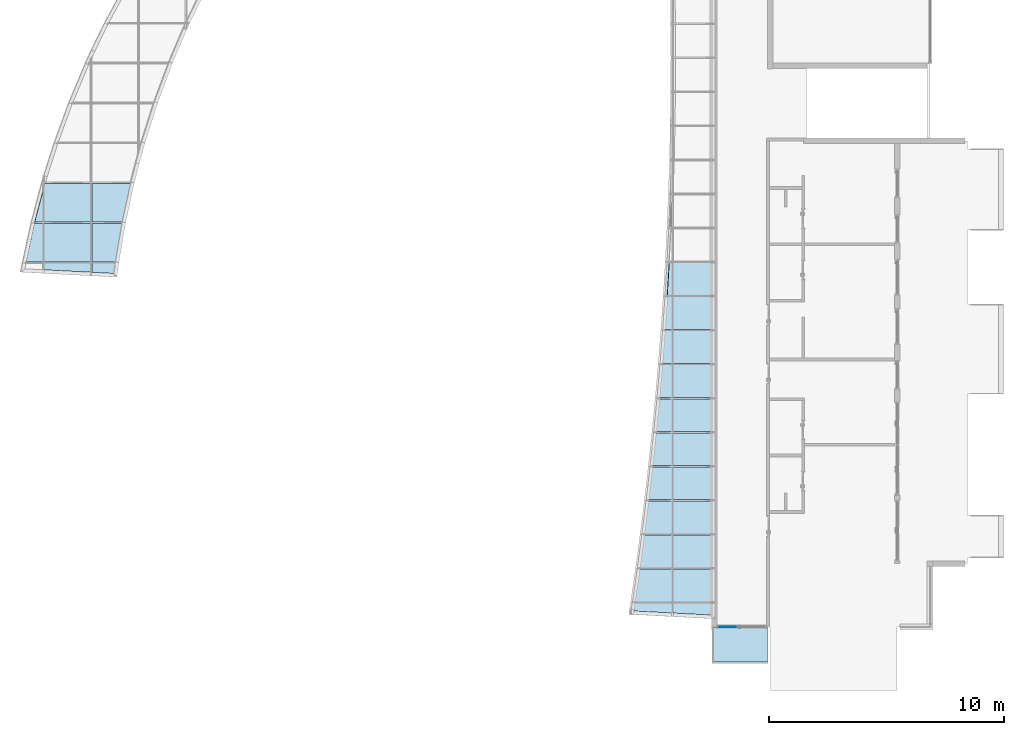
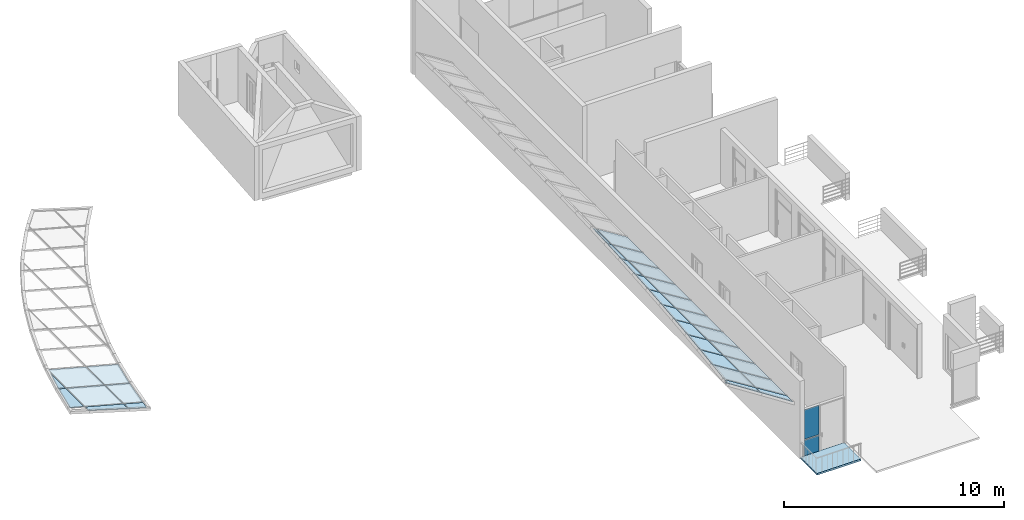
# One storey, part 14 of 33: 32 plates, 1 slab, 3 elements without a shape of their own.
"""IFC2X3 building model written with IfcOpenShell, lengths in millimetres."""

from ifc_helpers import new_model, entity, si_unit, converted_unit, derived_unit, direction, frame, frame_2d, origin, origin_2d_with_axis, place, context, subcontext, project, spatial, polyline, rectangle, outline, extrude, source, transform, mapped, material, layer, layer_set, layer_usage, type_object, type_shapes, element, aggregate, save


model = new_model("IFC2X3")

# Units and contexts
model_context = context("Model", 3, precision=0.01, world=origin(), true_north=direction((6.12303176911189e-17, 1.0)))
body_context = subcontext(model_context, "Body", "Model", "MODEL_VIEW")
ifc_project = project(units=[si_unit("LENGTHUNIT", "METRE", prefix="MILLI"), si_unit("AREAUNIT", "SQUARE_METRE"), si_unit("VOLUMEUNIT", "CUBIC_METRE"), converted_unit("PLANEANGLEUNIT", "DEGREE", entity("IfcRatioMeasure", 0.0174532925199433), si_unit("PLANEANGLEUNIT", "RADIAN"), dimensions=[0, 0, 0, 0, 0, 0, 0]), si_unit("MASSUNIT", "GRAM", prefix="KILO"), derived_unit("MASSDENSITYUNIT", [(si_unit("MASSUNIT", "GRAM", prefix="KILO"), 1), (si_unit("LENGTHUNIT", "METRE"), -3)]), si_unit("TIMEUNIT", "SECOND"), si_unit("FREQUENCYUNIT", "HERTZ"), si_unit("THERMODYNAMICTEMPERATUREUNIT", "DEGREE_CELSIUS"), derived_unit("THERMALTRANSMITTANCEUNIT", [(si_unit("MASSUNIT", "GRAM", prefix="KILO"), 1), (si_unit("THERMODYNAMICTEMPERATUREUNIT", "KELVIN"), -1), (si_unit("TIMEUNIT", "SECOND"), -3)]), derived_unit("VOLUMETRICFLOWRATEUNIT", [(si_unit("LENGTHUNIT", "METRE"), 3), (si_unit("TIMEUNIT", "SECOND"), -1)]), si_unit("ELECTRICCURRENTUNIT", "AMPERE"), si_unit("ELECTRICVOLTAGEUNIT", "VOLT"), si_unit("POWERUNIT", "WATT"), si_unit("FORCEUNIT", "NEWTON", prefix="KILO"), si_unit("ILLUMINANCEUNIT", "LUX"), si_unit("LUMINOUSFLUXUNIT", "LUMEN"), si_unit("LUMINOUSINTENSITYUNIT", "CANDELA"), derived_unit("USERDEFINED", [(si_unit("MASSUNIT", "GRAM", prefix="KILO"), -1), (si_unit("LENGTHUNIT", "METRE"), -2), (si_unit("TIMEUNIT", "SECOND"), 3), (si_unit("LUMINOUSFLUXUNIT", "LUMEN"), 1)]), derived_unit("LINEARVELOCITYUNIT", [(si_unit("LENGTHUNIT", "METRE"), 1), (si_unit("TIMEUNIT", "SECOND"), -1)]), si_unit("PRESSUREUNIT", "PASCAL"), derived_unit("USERDEFINED", [(si_unit("LENGTHUNIT", "METRE"), -2), (si_unit("MASSUNIT", "GRAM", prefix="KILO"), 1), (si_unit("TIMEUNIT", "SECOND"), -2)])], contexts=[model_context])

# Site, building, storey
site_placement = place(None, origin())
site = spatial("IfcSite", under=ifc_project, at=site_placement, Name="表面", CompositionType="ELEMENT")
building_placement = place(site_placement, origin())
building = spatial("IfcBuilding", under=site, at=building_placement, CompositionType="ELEMENT")
storey_placement = place(building_placement, frame((0.0, 0.0, 6000.0)))
storey = spatial("IfcBuildingStorey", under=building, at=storey_placement, Name="3F", CompositionType="ELEMENT", Elevation=6000.00000000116)

# Curtain wall, plates
curtain_wall_type_1 = type_object("IfcCurtainWallType", Name="幕墙系统:1450 x 2100mm", PredefinedType="NOTDEFINED")
curtain_wall_1_placement = place(storey_placement, frame((0.0, 0.0, -6000.0)))
curtain_wall_1 = element("IfcCurtainWall", 1, at=curtain_wall_1_placement, inside=storey, type_object=curtain_wall_type_1, Name="幕墙系统:1450 x 2100mm", ObjectType="幕墙系统:1450 x 2100mm")
ifc_material_1 = material(Name="<Unnamed>")
ifc_layer_1 = layer(ifc_material_1, 30.0)
ifc_layer_set_1 = layer_set([ifc_layer_1], Name="幕墙系统:1450 x 2100mm")
ifc_layer_usage_1 = layer_usage(ifc_layer_set_1, "AXIS3", "POSITIVE", 0.0)
plate_type_1 = type_object("IfcPlateType", Name="玻璃", PredefinedType="CURTAIN_PANEL", material=ifc_layer_set_1)
shared_shape_1 = source(origin(), body_context, "Body", "SweptSolid", [
    extrude(rectangle(XDim=30.0, YDim=1400.0, at=frame_2d((0.0, 3.97903932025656e-13), x_axis=(1.0, 0.0))), frame((0.0, 0.0, 0.0), z_axis=(0.0, 0.0, 1.0), x_axis=(0.0, 1.0, 0.0)), (0.0, 0.0, 1.0), 1925.0),
])
type_shapes(plate_type_1, [shared_shape_1])
plate_1_placement = place(curtain_wall_1_placement, frame((-14557.4571270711, -14595.8979069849, 8792.7057316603), z_axis=(-0.848048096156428, 0.0, 0.529919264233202), x_axis=(0.0, -1.0, 0.0)))
plate_1 = element("IfcPlate", 2, at=plate_1_placement, type_object=plate_type_1, material=ifc_layer_usage_1, Name="系统嵌板:玻璃", ObjectType="玻璃", context=body_context, shape_type="MappedRepresentation", body=[
    mapped(shared_shape_1, transform((0.0, 0.0, 0.0), scale=1.0)),
])
ifc_layer_usage_2 = layer_usage(ifc_layer_set_1, "AXIS3", "POSITIVE", 0.0)
plate_2_placement = place(curtain_wall_1_placement, frame((-14557.4571270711, -16045.8979069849, 8792.7057316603), z_axis=(-0.848048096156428, 0.0, 0.529919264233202), x_axis=(0.0, -1.0, 0.0)))
plate_2 = element("IfcPlate", 3, at=plate_2_placement, type_object=plate_type_1, material=ifc_layer_usage_2, Name="系统嵌板:玻璃", ObjectType="玻璃", context=body_context, shape_type="MappedRepresentation", body=[
    mapped(shared_shape_1, transform((0.0, 0.0, 0.0), scale=1.0)),
])
ifc_layer_usage_3 = layer_usage(ifc_layer_set_1, "AXIS3", "POSITIVE", 0.0)
plate_3_placement = place(curtain_wall_1_placement, frame((-14557.4571270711, -17495.8979069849, 8792.7057316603), z_axis=(-0.848048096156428, 0.0, 0.529919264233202), x_axis=(0.0, -1.0, 0.0)))
plate_3 = element("IfcPlate", 4, at=plate_3_placement, type_object=plate_type_1, material=ifc_layer_usage_3, Name="系统嵌板:玻璃", ObjectType="玻璃", context=body_context, shape_type="MappedRepresentation", body=[
    mapped(shared_shape_1, transform((0.0, 0.0, 0.0), scale=1.0)),
])
ifc_layer_usage_4 = layer_usage(ifc_layer_set_1, "AXIS3", "POSITIVE", 0.0)
plate_4_placement = place(curtain_wall_1_placement, frame((-14557.4571270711, -18945.8979069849, 8792.7057316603), z_axis=(-0.848048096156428, 0.0, 0.529919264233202), x_axis=(0.0, -1.0, 0.0)))
plate_4 = element("IfcPlate", 5, at=plate_4_placement, type_object=plate_type_1, material=ifc_layer_usage_4, Name="系统嵌板:玻璃", ObjectType="玻璃", context=body_context, shape_type="MappedRepresentation", body=[
    mapped(shared_shape_1, transform((0.0, 0.0, 0.0), scale=1.0)),
])
ifc_layer_usage_5 = layer_usage(ifc_layer_set_1, "AXIS3", "POSITIVE", 0.0)
plate_5_placement = place(curtain_wall_1_placement, frame((-14557.4571270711, -20395.8979069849, 8792.7057316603), z_axis=(-0.848048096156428, 0.0, 0.529919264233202), x_axis=(0.0, -1.0, 0.0)))
plate_5 = element("IfcPlate", 6, at=plate_5_placement, type_object=plate_type_1, material=ifc_layer_usage_5, Name="系统嵌板:玻璃", ObjectType="玻璃", context=body_context, shape_type="MappedRepresentation", body=[
    mapped(shared_shape_1, transform((0.0, 0.0, 0.0), scale=1.0)),
])
ifc_layer_usage_6 = layer_usage(ifc_layer_set_1, "AXIS3", "POSITIVE", 0.0)
plate_6_placement = place(curtain_wall_1_placement, frame((-14557.4571270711, -21845.8979069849, 8792.7057316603), z_axis=(-0.848048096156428, 0.0, 0.529919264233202), x_axis=(0.0, -1.0, 0.0)))
plate_6 = element("IfcPlate", 7, at=plate_6_placement, type_object=plate_type_1, material=ifc_layer_usage_6, Name="系统嵌板:玻璃", ObjectType="玻璃", context=body_context, shape_type="MappedRepresentation", body=[
    mapped(shared_shape_1, transform((0.0, 0.0, 0.0), scale=1.0)),
])
ifc_layer_usage_7 = layer_usage(ifc_layer_set_1, "AXIS3", "POSITIVE", 0.0)
plate_7_placement = place(curtain_wall_1_placement, frame((-14557.4571270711, -23295.8979069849, 8792.7057316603), z_axis=(-0.848048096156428, 0.0, 0.529919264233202), x_axis=(0.0, -1.0, 0.0)))
plate_7 = element("IfcPlate", 8, at=plate_7_placement, type_object=plate_type_1, material=ifc_layer_usage_7, Name="系统嵌板:玻璃", ObjectType="玻璃", context=body_context, shape_type="MappedRepresentation", body=[
    mapped(shared_shape_1, transform((0.0, 0.0, 0.0), scale=1.0)),
])
ifc_layer_usage_8 = layer_usage(ifc_layer_set_1, "AXIS3", "POSITIVE", 0.0)
plate_8_placement = place(curtain_wall_1_placement, frame((-14557.4571270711, -24745.8979069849, 8792.7057316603), z_axis=(-0.848048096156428, 0.0, 0.529919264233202), x_axis=(0.0, -1.0, 0.0)))
plate_8 = element("IfcPlate", 9, at=plate_8_placement, type_object=plate_type_1, material=ifc_layer_usage_8, Name="系统嵌板:玻璃", ObjectType="玻璃", context=body_context, shape_type="MappedRepresentation", body=[
    mapped(shared_shape_1, transform((0.0, 0.0, 0.0), scale=1.0)),
])
ifc_layer_usage_9 = layer_usage(ifc_layer_set_1, "AXIS3", "POSITIVE", 0.0)
plate_9_placement = place(curtain_wall_1_placement, frame((-14557.4571270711, -26195.8979069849, 8792.70573166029), z_axis=(-0.848048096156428, 0.0, 0.529919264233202), x_axis=(0.0, -1.0, 0.0)))
plate_9 = element("IfcPlate", 10, at=plate_9_placement, type_object=plate_type_1, material=ifc_layer_usage_9, Name="系统嵌板:玻璃", ObjectType="玻璃", context=body_context, shape_type="MappedRepresentation", body=[
    mapped(shared_shape_1, transform((0.0, 0.0, 0.0), scale=1.0)),
])
ifc_layer_usage_10 = layer_usage(ifc_layer_set_1, "AXIS3", "POSITIVE", 0.0)
plate_10_placement = place(curtain_wall_1_placement, frame((-14557.4571270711, -27645.8979069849, 8792.70573166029), z_axis=(-0.848048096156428, 0.0, 0.529919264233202), x_axis=(0.0, -1.0, 0.0)))
plate_10 = element("IfcPlate", 11, at=plate_10_placement, type_object=plate_type_1, material=ifc_layer_usage_10, Name="系统嵌板:玻璃", ObjectType="玻璃", context=body_context, shape_type="MappedRepresentation", body=[
    mapped(shared_shape_1, transform((0.0, 0.0, 0.0), scale=1.0)),
])

curtain_wall_type_2 = type_object("IfcCurtainWallType", Name="幕墙系统:1700 x 2100mm", PredefinedType="NOTDEFINED")
curtain_wall_2_placement = place(storey_placement, frame((0.0, 0.0, -6000.0)))
curtain_wall_2 = element("IfcCurtainWall", 12, at=curtain_wall_2_placement, inside=storey, type_object=curtain_wall_type_2, Name="幕墙系统:1700 x 2100mm", ObjectType="幕墙系统:1700 x 2100mm")
ifc_layer_usage_11 = layer_usage(ifc_layer_set_1, "AXIS3", "POSITIVE", 0.0)
plate_type_2 = type_object("IfcPlateType", Name="玻璃", PredefinedType="CURTAIN_PANEL", material=ifc_layer_set_1)
shared_shape_2 = source(origin(), body_context, "Body", "SweptSolid", [
    extrude(rectangle(XDim=30.0, YDim=1649.99999999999, at=origin_2d_with_axis()), frame((0.0, 0.0, 0.0), z_axis=(0.0, 0.0, 1.0), x_axis=(0.0, 1.0, 0.0)), (0.0, 0.0, 1.0), 2050.0),
])
type_shapes(plate_type_2, [shared_shape_2])
plate_11_placement = place(curtain_wall_2_placement, frame((-40991.5957173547, -11344.3726869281, 8819.49174603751), z_axis=(-0.965925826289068, 0.0, 0.258819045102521), x_axis=(0.0, -1.0, 0.0)))
plate_11 = element("IfcPlate", 13, at=plate_11_placement, type_object=plate_type_2, material=ifc_layer_usage_11, Name="系统嵌板:玻璃", ObjectType="玻璃", context=body_context, shape_type="MappedRepresentation", body=[
    mapped(shared_shape_2, transform((0.0, 0.0, 0.0), scale=1.0)),
])
ifc_layer_usage_12 = layer_usage(ifc_layer_set_1, "AXIS3", "POSITIVE", 0.0)
plate_12_placement = place(curtain_wall_2_placement, frame((-40991.5957173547, -13044.3726869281, 8819.49174603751), z_axis=(-0.965925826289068, 0.0, 0.258819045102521), x_axis=(0.0, -1.0, 0.0)))
plate_12 = element("IfcPlate", 14, at=plate_12_placement, type_object=plate_type_2, material=ifc_layer_usage_12, Name="系统嵌板:玻璃", ObjectType="玻璃", context=body_context, shape_type="MappedRepresentation", body=[
    mapped(shared_shape_2, transform((0.0, 0.0, 0.0), scale=1.0)),
])
ifc_layer_usage_13 = layer_usage(ifc_layer_set_1, "AXIS3", "POSITIVE", 0.0)
plate_type_3 = type_object("IfcPlateType", Name="玻璃", PredefinedType="CURTAIN_PANEL", material=ifc_layer_set_1)
shared_shape_3 = source(origin(), body_context, "Body", "SweptSolid", [
    extrude(outline(polyline([(-943.965807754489, -825.0), (758.199097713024, -825.0), (758.199097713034, 825.0), (-572.432387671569, 825.0), (-943.965807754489, -825.0)])), frame((0.0, -15.0, 943.965807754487), z_axis=(0.0, 1.0, 0.0), x_axis=(0.0, 0.0, 1.0)), (0.0, 0.0, 1.0), 30.0),
])
type_shapes(plate_type_3, [shared_shape_3])
plate_13_placement = place(curtain_wall_2_placement, frame((-39299.1343832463, -11344.3726869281, 8365.99809834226), z_axis=(-0.965925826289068, 0.0, 0.258819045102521), x_axis=(0.0, -1.0, 0.0)))
plate_13 = element("IfcPlate", 15, at=plate_13_placement, type_object=plate_type_3, material=ifc_layer_usage_13, Name="系统嵌板:玻璃", ObjectType="玻璃", context=body_context, shape_type="MappedRepresentation", body=[
    mapped(shared_shape_3, transform((0.0, 0.0, 0.0), scale=1.0)),
])
ifc_layer_usage_14 = layer_usage(ifc_layer_set_1, "AXIS3", "POSITIVE", 0.0)
plate_type_4 = type_object("IfcPlateType", Name="玻璃", PredefinedType="CURTAIN_PANEL", material=ifc_layer_set_1)
shared_shape_4 = source(origin(), body_context, "Body", "SweptSolid", [
    extrude(outline(polyline([(-733.518096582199, -825.0), (588.548508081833, -825.0), (588.548508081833, 825.0), (-443.578919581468, 825.0), (-733.518096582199, -825.0)])), frame((0.0, -15.0, 733.518096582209), z_axis=(0.0, 1.0, 0.0), x_axis=(0.0, 0.0, 1.0)), (0.0, 0.0, 1.0), 30.0),
])
type_shapes(plate_type_4, [shared_shape_4])
plate_14_placement = place(curtain_wall_2_placement, frame((-39666.281148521, -13044.3726869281, 8464.37477760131), z_axis=(-0.965925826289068, 0.0, 0.258819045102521), x_axis=(0.0, -1.0, 0.0)))
plate_14 = element("IfcPlate", 16, at=plate_14_placement, type_object=plate_type_4, material=ifc_layer_usage_14, Name="系统嵌板:玻璃", ObjectType="玻璃", context=body_context, shape_type="MappedRepresentation", body=[
    mapped(shared_shape_4, transform((0.0, 0.0, 0.0), scale=1.0)),
])
ifc_layer_usage_15 = layer_usage(ifc_layer_set_1, "AXIS3", "POSITIVE", 0.0)
plate_type_5 = type_object("IfcPlateType", Name="玻璃", PredefinedType="CURTAIN_PANEL", material=ifc_layer_set_1)
shared_shape_5 = source(origin(), body_context, "Body", "SweptSolid", [
    extrude(outline(polyline([(-528.110221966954, -207.028997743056), (496.837024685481, -207.028997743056), (496.837024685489, 182.669656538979), (-465.563827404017, 231.388338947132), (-528.110221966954, -207.028997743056)])), frame((-12.1796706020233, -15.0, 528.110221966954), z_axis=(0.0, 1.0, 0.0), x_axis=(0.0, 0.0, 1.0)), (0.0, 0.0, 1.0), 30.0),
])
type_shapes(plate_type_5, [shared_shape_5])
plate_15_placement = place(curtain_wall_2_placement, frame((-39953.2764099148, -14138.5813552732, 8541.27492612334), z_axis=(-0.965925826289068, 0.0, 0.258819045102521), x_axis=(0.0, -1.0, 0.0)))
plate_15 = element("IfcPlate", 17, at=plate_15_placement, type_object=plate_type_5, material=ifc_layer_usage_15, Name="系统嵌板:玻璃", ObjectType="玻璃", context=body_context, shape_type="MappedRepresentation", body=[
    mapped(shared_shape_5, transform((0.0, 0.0, 0.0), scale=1.0)),
])
ifc_layer_usage_16 = layer_usage(ifc_layer_set_1, "AXIS3", "POSITIVE", 0.0)
plate_type_6 = type_object("IfcPlateType", Name="玻璃", PredefinedType="CURTAIN_PANEL", material=ifc_layer_set_1)
shared_shape_6 = source(origin(), body_context, "Body", "SweptSolid", [
    extrude(outline(polyline([(-1025.0, -167.639987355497), (1025.0, -167.639987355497), (1025.0, 115.752409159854), (-1025.0, 219.52756555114), (-1025.0, -167.639987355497)])), frame((-25.9437890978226, -15.0, 1025.0), z_axis=(0.0, 1.0, 0.0), x_axis=(0.0, 0.0, 1.0)), (0.0, 0.0, 1.0), 30.0),
])
type_shapes(plate_type_6, [shared_shape_6])
plate_16_placement = place(curtain_wall_2_placement, frame((-40991.5957173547, -14112.9564633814, 8819.49174603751), z_axis=(-0.965925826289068, 0.0, 0.258819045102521), x_axis=(0.0, -1.0, 0.0)))
plate_16 = element("IfcPlate", 18, at=plate_16_placement, type_object=plate_type_6, material=ifc_layer_usage_16, Name="系统嵌板:玻璃", ObjectType="玻璃", context=body_context, shape_type="MappedRepresentation", body=[
    mapped(shared_shape_6, transform((0.0, 0.0, 0.0), scale=1.0)),
])
ifc_layer_usage_17 = layer_usage(ifc_layer_set_1, "AXIS3", "POSITIVE", 0.0)
plate_type_7 = type_object("IfcPlateType", Name="玻璃", PredefinedType="CURTAIN_PANEL", material=ifc_layer_set_1)
shared_shape_7 = source(origin(), body_context, "Body", "SweptSolid", [
    extrude(outline(polyline([(-900.725423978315, -118.668920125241), (499.018128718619, -118.668920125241), (401.707295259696, 237.337840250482), (-900.725423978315, -118.668920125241)])), frame((225.03529362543, -15.0, 123.022225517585), z_axis=(0.0, 1.0, 0.0), x_axis=(0.964613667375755, 0.0, 0.263667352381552)), (0.0, 0.0, 1.0), 30.0),
])
type_shapes(plate_type_7, [shared_shape_7])
plate_17_placement = place(curtain_wall_2_placement, frame((-43020.0399525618, -11494.2668060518, 9363.0117407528), z_axis=(-0.965925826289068, 0.0, 0.258819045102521), x_axis=(0.0, -1.0, 0.0)))
plate_17 = element("IfcPlate", 19, at=plate_17_placement, type_object=plate_type_7, material=ifc_layer_usage_17, Name="系统嵌板:玻璃", ObjectType="玻璃", context=body_context, shape_type="MappedRepresentation", body=[
    mapped(shared_shape_7, transform((0.0, 0.0, 0.0), scale=1.0)),
])
ifc_layer_usage_18 = layer_usage(ifc_layer_set_1, "AXIS3", "POSITIVE", 0.0)
plate_type_8 = type_object("IfcPlateType", Name="玻璃", PredefinedType="CURTAIN_PANEL", material=ifc_layer_set_1)
shared_shape_8 = source(origin(), body_context, "Body", "SweptSolid", [
    extrude(outline(polyline([(-284.163715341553, -825.0), (99.1196740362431, -825.0), (469.207756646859, 825.0), (-284.16371534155, 825.0), (-284.163715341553, -825.0)])), frame((0.0, -15.0, 284.163715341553), z_axis=(0.0, 1.0, 0.0), x_axis=(0.0, 0.0, 1.0)), (0.0, 0.0, 1.0), 30.0),
])
type_shapes(plate_type_8, [shared_shape_8])
plate_18_placement = place(curtain_wall_2_placement, frame((-43020.0399525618, -13044.3726869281, 9363.0117407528), z_axis=(-0.965925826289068, 0.0, 0.258819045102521), x_axis=(0.0, -1.0, 0.0)))
plate_18 = element("IfcPlate", 20, at=plate_18_placement, type_object=plate_type_8, material=ifc_layer_usage_18, Name="系统嵌板:玻璃", ObjectType="玻璃", context=body_context, shape_type="MappedRepresentation", body=[
    mapped(shared_shape_8, transform((0.0, 0.0, 0.0), scale=1.0)),
])
aggregate(curtain_wall_2, [plate_13, plate_14, plate_15, plate_11, plate_12, plate_16, plate_17, plate_18])

curtain_wall_type_3 = type_object("IfcCurtainWallType", Name="幕墙:幕墙 2", PredefinedType="NOTDEFINED")
curtain_wall_3_placement = place(storey_placement, frame((0.0, 0.0, -6000.0)))
curtain_wall_3 = element("IfcCurtainWall", 21, at=curtain_wall_3_placement, inside=storey, type_object=curtain_wall_type_3, Name="幕墙:幕墙 2", ObjectType="幕墙:幕墙 2")
ifc_layer_usage_19 = layer_usage(ifc_layer_set_1, "AXIS3", "POSITIVE", 0.0)
plate_type_9 = type_object("IfcPlateType", Name="玻璃", PredefinedType="CURTAIN_PANEL", material=ifc_layer_set_1)
shared_shape_9 = source(origin(), body_context, "Body", "SweptSolid", [
    extrude(rectangle(XDim=30.0, YDim=784.999999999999, at=origin_2d_with_axis()), frame((0.0, 0.0, 0.0), z_axis=(0.0, 0.0, 1.0), x_axis=(0.0, 1.0, 0.0)), (0.0, 0.0, 1.0), 875.0),
])
type_shapes(plate_type_9, [shared_shape_9])
plate_19_placement = place(curtain_wall_3_placement, frame((-13867.7499126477, -29416.868426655, 6000.0)))
plate_19 = element("IfcPlate", 22, at=plate_19_placement, type_object=plate_type_9, material=ifc_layer_usage_19, Name="系统嵌板:玻璃", ObjectType="玻璃", context=body_context, shape_type="MappedRepresentation", body=[
    mapped(shared_shape_9, transform((0.0, 0.0, 0.0), scale=1.0)),
])
ifc_layer_usage_20 = layer_usage(ifc_layer_set_1, "AXIS3", "POSITIVE", 0.0)
plate_type_10 = type_object("IfcPlateType", Name="玻璃", PredefinedType="CURTAIN_PANEL", material=ifc_layer_set_1)
shared_shape_10 = source(origin(), body_context, "Body", "SweptSolid", [
    extrude(rectangle(XDim=30.0, YDim=784.999999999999, at=origin_2d_with_axis()), frame((0.0, 0.0, 0.0), z_axis=(0.0, 0.0, 1.0), x_axis=(0.0, 1.0, 0.0)), (0.0, 0.0, 1.0), 1625.0),
])
type_shapes(plate_type_10, [shared_shape_10])
plate_20_placement = place(curtain_wall_3_placement, frame((-13867.7499126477, -29416.868426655, 6925.0)))
plate_20 = element("IfcPlate", 23, at=plate_20_placement, type_object=plate_type_10, material=ifc_layer_usage_20, Name="系统嵌板:玻璃", ObjectType="玻璃", context=body_context, shape_type="MappedRepresentation", body=[
    mapped(shared_shape_10, transform((0.0, 0.0, 0.0), scale=1.0)),
])
aggregate(curtain_wall_3, [plate_19, plate_20])

# Plate
ifc_layer_usage_21 = layer_usage(ifc_layer_set_1, "AXIS3", "POSITIVE", 0.0)
plate_type_11 = type_object("IfcPlateType", Name="玻璃", PredefinedType="CURTAIN_PANEL", material=ifc_layer_set_1)
shared_shape_11 = source(origin(), body_context, "Body", "SweptSolid", [
    extrude(outline(polyline([(-962.499999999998, -235.689071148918), (962.499999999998, -235.689071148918), (962.499999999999, 192.911415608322), (-962.5, 278.466726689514), (-962.499999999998, -235.689071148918)])), frame((-21.3888277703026, -15.0, 962.499999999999), z_axis=(0.0, 1.0, 0.0), x_axis=(0.0, 0.0, 1.0)), (0.0, 0.0, 1.0), 30.0),
])
type_shapes(plate_type_11, [shared_shape_11])
plate_21_placement = place(curtain_wall_1_placement, frame((-14557.4571270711, -28652.9758059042, 8792.70573166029), z_axis=(-0.848048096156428, 0.0, 0.529919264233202), x_axis=(0.0, -1.0, 0.0)))
plate_21 = element("IfcPlate", 24, at=plate_21_placement, type_object=plate_type_11, material=ifc_layer_usage_21, Name="系统嵌板:玻璃", ObjectType="玻璃", context=body_context, shape_type="MappedRepresentation", body=[
    mapped(shared_shape_11, transform((0.0, 0.0, 0.0), scale=1.0)),
])

ifc_layer_usage_22 = layer_usage(ifc_layer_set_1, "AXIS3", "POSITIVE", 0.0)
plate_type_12 = type_object("IfcPlateType", Name="玻璃", PredefinedType="CURTAIN_PANEL", material=ifc_layer_set_1)
shared_shape_12 = source(origin(), body_context, "Body", "SweptSolid", [
    extrude(outline(polyline([(-93.6470514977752, -700.0), (44.3050289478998, -700.0), (142.989074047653, 700.0), (-93.6470514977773, 700.0), (-93.6470514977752, -700.0)])), frame((0.0, -15.0, 93.6470514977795), z_axis=(0.0, 1.0, 0.0), x_axis=(0.0, 0.0, 1.0)), (0.0, 0.0, 1.0), 30.0),
])
type_shapes(plate_type_12, [shared_shape_12])
plate_22_placement = place(curtain_wall_1_placement, frame((-16232.35211698, -14595.8979069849, 9839.29627852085), z_axis=(-0.848048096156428, 0.0, 0.529919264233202), x_axis=(0.0, -1.0, 0.0)))
plate_22 = element("IfcPlate", 25, at=plate_22_placement, type_object=plate_type_12, material=ifc_layer_usage_22, Name="系统嵌板:玻璃", ObjectType="玻璃", context=body_context, shape_type="MappedRepresentation", body=[
    mapped(shared_shape_12, transform((0.0, 0.0, 0.0), scale=1.0)),
])

ifc_layer_usage_23 = layer_usage(ifc_layer_set_1, "AXIS3", "POSITIVE", 0.0)
plate_type_13 = type_object("IfcPlateType", Name="玻璃", PredefinedType="CURTAIN_PANEL", material=ifc_layer_set_1)
shared_shape_13 = source(origin(), body_context, "Body", "SweptSolid", [
    extrude(outline(polyline([(-148.645531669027, -700.0), (91.6638988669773, -700.0), (205.627164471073, 700.0), (-148.645531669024, 700.0), (-148.645531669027, -700.0)])), frame((0.0, -15.0, 148.645531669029), z_axis=(0.0, 1.0, 0.0), x_axis=(0.0, 0.0, 1.0)), (0.0, 0.0, 1.0), 30.0),
])
type_shapes(plate_type_13, [shared_shape_13])
plate_23_placement = place(curtain_wall_1_placement, frame((-16232.35211698, -16045.8979069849, 9839.29627852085), z_axis=(-0.848048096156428, 0.0, 0.529919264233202), x_axis=(0.0, -1.0, 0.0)))
plate_23 = element("IfcPlate", 26, at=plate_23_placement, type_object=plate_type_13, material=ifc_layer_usage_23, Name="系统嵌板:玻璃", ObjectType="玻璃", context=body_context, shape_type="MappedRepresentation", body=[
    mapped(shared_shape_13, transform((0.0, 0.0, 0.0), scale=1.0)),
])

ifc_layer_usage_24 = layer_usage(ifc_layer_set_1, "AXIS3", "POSITIVE", 0.0)
plate_type_14 = type_object("IfcPlateType", Name="玻璃", PredefinedType="CURTAIN_PANEL", material=ifc_layer_set_1)
shared_shape_14 = source(origin(), body_context, "Body", "SweptSolid", [
    extrude(outline(polyline([(-211.555038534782, -700.0), (146.91919309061, -700.0), (276.190883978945, 700.0), (-211.555038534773, 700.0), (-211.555038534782, -700.0)])), frame((0.0, -15.0, 211.555038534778), z_axis=(0.0, 1.0, 0.0), x_axis=(0.0, 0.0, 1.0)), (0.0, 0.0, 1.0), 30.0),
])
type_shapes(plate_type_14, [shared_shape_14])
plate_24_placement = place(curtain_wall_1_placement, frame((-16232.3521169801, -17495.8979069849, 9839.29627852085), z_axis=(-0.848048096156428, 0.0, 0.529919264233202), x_axis=(0.0, -1.0, 0.0)))
plate_24 = element("IfcPlate", 27, at=plate_24_placement, type_object=plate_type_14, material=ifc_layer_usage_24, Name="系统嵌板:玻璃", ObjectType="玻璃", context=body_context, shape_type="MappedRepresentation", body=[
    mapped(shared_shape_14, transform((0.0, 0.0, 0.0), scale=1.0)),
])

ifc_layer_usage_25 = layer_usage(ifc_layer_set_1, "AXIS3", "POSITIVE", 0.0)
plate_type_15 = type_object("IfcPlateType", Name="玻璃", PredefinedType="CURTAIN_PANEL", material=ifc_layer_set_1)
shared_shape_15 = source(origin(), body_context, "Body", "SweptSolid", [
    extrude(outline(polyline([(-282.391687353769, -700.0), (210.085020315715, -700.0), (354.698354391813, 700.0), (-282.39168735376, 700.0), (-282.391687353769, -700.0)])), frame((0.0, -15.0, 282.391687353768), z_axis=(0.0, 1.0, 0.0), x_axis=(0.0, 0.0, 1.0)), (0.0, 0.0, 1.0), 30.0),
])
type_shapes(plate_type_15, [shared_shape_15])
plate_25_placement = place(curtain_wall_1_placement, frame((-16232.3521169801, -18945.8979069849, 9839.29627852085), z_axis=(-0.848048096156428, 0.0, 0.529919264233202), x_axis=(0.0, -1.0, 0.0)))
plate_25 = element("IfcPlate", 28, at=plate_25_placement, type_object=plate_type_15, material=ifc_layer_usage_25, Name="系统嵌板:玻璃", ObjectType="玻璃", context=body_context, shape_type="MappedRepresentation", body=[
    mapped(shared_shape_15, transform((0.0, 0.0, 0.0), scale=1.0)),
])

ifc_layer_usage_26 = layer_usage(ifc_layer_set_1, "AXIS3", "POSITIVE", 0.0)
plate_type_16 = type_object("IfcPlateType", Name="玻璃", PredefinedType="CURTAIN_PANEL", material=ifc_layer_set_1)
shared_shape_16 = source(origin(), body_context, "Body", "SweptSolid", [
    extrude(outline(polyline([(-361.173676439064, -700.0), (281.177550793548, -700.0), (441.169802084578, 700.0), (-361.173676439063, 700.0), (-361.173676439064, -700.0)])), frame((0.0, -15.0, 361.173676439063), z_axis=(0.0, 1.0, 0.0), x_axis=(0.0, 0.0, 1.0)), (0.0, 0.0, 1.0), 30.0),
])
type_shapes(plate_type_16, [shared_shape_16])
plate_26_placement = place(curtain_wall_1_placement, frame((-16232.3521169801, -20395.8979069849, 9839.29627852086), z_axis=(-0.848048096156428, 0.0, 0.529919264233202), x_axis=(0.0, -1.0, 0.0)))
plate_26 = element("IfcPlate", 29, at=plate_26_placement, type_object=plate_type_16, material=ifc_layer_usage_26, Name="系统嵌板:玻璃", ObjectType="玻璃", context=body_context, shape_type="MappedRepresentation", body=[
    mapped(shared_shape_16, transform((0.0, 0.0, 0.0), scale=1.0)),
])

ifc_layer_usage_27 = layer_usage(ifc_layer_set_1, "AXIS3", "POSITIVE", 0.0)
plate_type_17 = type_object("IfcPlateType", Name="玻璃", PredefinedType="CURTAIN_PANEL", material=ifc_layer_set_1)
shared_shape_17 = source(origin(), body_context, "Body", "SweptSolid", [
    extrude(outline(polyline([(-447.921310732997, -700.0), (360.215037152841, -700.0), (535.627584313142, 700.0), (-447.921310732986, 700.0), (-447.921310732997, -700.0)])), frame((0.0, -15.0, 447.921310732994), z_axis=(0.0, 1.0, 0.0), x_axis=(0.0, 0.0, 1.0)), (0.0, 0.0, 1.0), 30.0),
])
type_shapes(plate_type_17, [shared_shape_17])
plate_27_placement = place(curtain_wall_1_placement, frame((-16232.3521169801, -21845.8979069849, 9839.29627852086), z_axis=(-0.848048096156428, 0.0, 0.529919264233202), x_axis=(0.0, -1.0, 0.0)))
plate_27 = element("IfcPlate", 30, at=plate_27_placement, type_object=plate_type_17, material=ifc_layer_usage_27, Name="系统嵌板:玻璃", ObjectType="玻璃", context=body_context, shape_type="MappedRepresentation", body=[
    mapped(shared_shape_17, transform((0.0, 0.0, 0.0), scale=1.0)),
])

ifc_layer_usage_28 = layer_usage(ifc_layer_set_1, "AXIS3", "POSITIVE", 0.0)
plate_type_18 = type_object("IfcPlateType", Name="玻璃", PredefinedType="CURTAIN_PANEL", material=ifc_layer_set_1)
shared_shape_18 = source(origin(), body_context, "Body", "SweptSolid", [
    extrude(outline(polyline([(-542.657028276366, -700.0), (447.217838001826, -700.0), (638.096218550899, 700.0), (-542.657028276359, 700.0), (-542.657028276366, -700.0)])), frame((0.0, -15.0, 542.657028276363), z_axis=(0.0, 1.0, 0.0), x_axis=(0.0, 0.0, 1.0)), (0.0, 0.0, 1.0), 30.0),
])
type_shapes(plate_type_18, [shared_shape_18])
plate_28_placement = place(curtain_wall_1_placement, frame((-16232.3521169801, -23295.8979069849, 9839.29627852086), z_axis=(-0.848048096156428, 0.0, 0.529919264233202), x_axis=(0.0, -1.0, 0.0)))
plate_28 = element("IfcPlate", 31, at=plate_28_placement, type_object=plate_type_18, material=ifc_layer_usage_28, Name="系统嵌板:玻璃", ObjectType="玻璃", context=body_context, shape_type="MappedRepresentation", body=[
    mapped(shared_shape_18, transform((0.0, 0.0, 0.0), scale=1.0)),
])

ifc_layer_usage_29 = layer_usage(ifc_layer_set_1, "AXIS3", "POSITIVE", 0.0)
plate_type_19 = type_object("IfcPlateType", Name="玻璃", PredefinedType="CURTAIN_PANEL", material=ifc_layer_set_1)
shared_shape_19 = source(origin(), body_context, "Body", "SweptSolid", [
    extrude(outline(polyline([(-645.405429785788, -700.0), (542.208444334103, -700.0), (748.602415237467, 700.0), (-645.405429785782, 700.0), (-645.405429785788, -700.0)])), frame((0.0, -15.0, 645.405429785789), z_axis=(0.0, 1.0, 0.0), x_axis=(0.0, 0.0, 1.0)), (0.0, 0.0, 1.0), 30.0),
])
type_shapes(plate_type_19, [shared_shape_19])
plate_29_placement = place(curtain_wall_1_placement, frame((-16232.3521169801, -24745.8979069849, 9839.29627852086), z_axis=(-0.848048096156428, 0.0, 0.529919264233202), x_axis=(0.0, -1.0, 0.0)))
plate_29 = element("IfcPlate", 32, at=plate_29_placement, type_object=plate_type_19, material=ifc_layer_usage_29, Name="系统嵌板:玻璃", ObjectType="玻璃", context=body_context, shape_type="MappedRepresentation", body=[
    mapped(shared_shape_19, transform((0.0, 0.0, 0.0), scale=1.0)),
])

ifc_layer_usage_30 = layer_usage(ifc_layer_set_1, "AXIS3", "POSITIVE", 0.0)
plate_type_20 = type_object("IfcPlateType", Name="玻璃", PredefinedType="CURTAIN_PANEL", material=ifc_layer_set_1)
shared_shape_20 = source(origin(), body_context, "Body", "SweptSolid", [
    extrude(outline(polyline([(-756.193311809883, -700.0), (645.21150889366, -700.0), (867.175114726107, 700.0), (-756.193311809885, 700.0), (-756.193311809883, -700.0)])), frame((0.0, -15.0, 756.193311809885), z_axis=(0.0, 1.0, 0.0), x_axis=(0.0, 0.0, 1.0)), (0.0, 0.0, 1.0), 30.0),
])
type_shapes(plate_type_20, [shared_shape_20])
plate_30_placement = place(curtain_wall_1_placement, frame((-16232.3521169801, -26195.8979069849, 9839.29627852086), z_axis=(-0.848048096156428, 0.0, 0.529919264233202), x_axis=(0.0, -1.0, 0.0)))
plate_30 = element("IfcPlate", 33, at=plate_30_placement, type_object=plate_type_20, material=ifc_layer_usage_30, Name="系统嵌板:玻璃", ObjectType="玻璃", context=body_context, shape_type="MappedRepresentation", body=[
    mapped(shared_shape_20, transform((0.0, 0.0, 0.0), scale=1.0)),
])

ifc_layer_usage_31 = layer_usage(ifc_layer_set_1, "AXIS3", "POSITIVE", 0.0)
plate_type_21 = type_object("IfcPlateType", Name="玻璃", PredefinedType="CURTAIN_PANEL", material=ifc_layer_set_1)
shared_shape_21 = source(origin(), body_context, "Body", "SweptSolid", [
    extrude(outline(polyline([(-875.049701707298, -700.0), (756.253881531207, -700.0), (993.845521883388, 700.0), (-875.049701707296, 700.0), (-875.049701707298, -700.0)])), frame((0.0, -15.0, 875.049701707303), z_axis=(0.0, 1.0, 0.0), x_axis=(0.0, 0.0, 1.0)), (0.0, 0.0, 1.0), 30.0),
])
type_shapes(plate_type_21, [shared_shape_21])
plate_31_placement = place(curtain_wall_1_placement, frame((-16232.3521169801, -27645.8979069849, 9839.29627852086), z_axis=(-0.848048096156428, 0.0, 0.529919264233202), x_axis=(0.0, -1.0, 0.0)))
plate_31 = element("IfcPlate", 34, at=plate_31_placement, type_object=plate_type_21, material=ifc_layer_usage_31, Name="系统嵌板:玻璃", ObjectType="玻璃", context=body_context, shape_type="MappedRepresentation", body=[
    mapped(shared_shape_21, transform((0.0, 0.0, 0.0), scale=1.0)),
])

ifc_layer_usage_32 = layer_usage(ifc_layer_set_1, "AXIS3", "POSITIVE", 0.0)
plate_type_22 = type_object("IfcPlateType", Name="玻璃", PredefinedType="CURTAIN_PANEL", material=ifc_layer_set_1)
shared_shape_22 = source(origin(), body_context, "Body", "SweptSolid", [
    extrude(outline(polyline([(-1317.442885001, -216.90170190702), (559.933894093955, -216.90170190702), (609.837645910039, 66.0089739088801), (732.557114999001, 39.9521427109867), (732.557114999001, 118.365718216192), (-1317.442885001, 209.476568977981), (-1317.442885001, -216.90170190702)])), frame((3.71256646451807, -15.0, 1317.442885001), z_axis=(0.0, 1.0, 0.0), x_axis=(0.0, 0.0, 1.0)), (0.0, 0.0, 1.0), 30.0),
])
type_shapes(plate_type_22, [shared_shape_22])
plate_32_placement = place(curtain_wall_1_placement, frame((-16232.3521169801, -28609.0870424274, 9839.29627852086), z_axis=(-0.848048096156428, 0.0, 0.529919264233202), x_axis=(0.0, -1.0, 0.0)))
plate_32 = element("IfcPlate", 35, at=plate_32_placement, type_object=plate_type_22, material=ifc_layer_usage_32, Name="系统嵌板:玻璃", ObjectType="玻璃", context=body_context, shape_type="MappedRepresentation", body=[
    mapped(shared_shape_22, transform((0.0, 0.0, 0.0), scale=1.0)),
])

aggregate(curtain_wall_1, [plate_1, plate_2, plate_3, plate_4, plate_5, plate_6, plate_7, plate_8, plate_9, plate_10, plate_21, plate_22, plate_23, plate_24, plate_25, plate_26, plate_27, plate_28, plate_29, plate_30, plate_31, plate_32])

# Slab
ifc_material_2 = material(Name="默认楼板")
ifc_layer_2 = layer(ifc_material_2, 100.0)
ifc_layer_set_2 = layer_set([ifc_layer_2], Name="楼板:常规 - 100mm")
ifc_layer_usage_33 = layer_usage(ifc_layer_set_2, "AXIS3", "POSITIVE", 0.0)
slab_placement = place(storey_placement, origin())
element("IfcSlab", 36, at=slab_placement, inside=storey, material=ifc_layer_usage_33, Name="楼板:常规 - 100mm", ObjectType="楼板:常规 - 100mm", PredefinedType="FLOOR", context=body_context, shape_type="SweptSolid", body=[
    extrude(rectangle(XDim=1500.0, YDim=2300.0, at=frame_2d((-2.1600499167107e-12, 1.13686837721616e-12), x_axis=(1.0, 0.0))), frame((-13300.2499126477, -30166.868426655, 0.0), z_axis=(0.0, 0.0, -1.0), x_axis=(0.0, 1.0, 0.0)), (0.0, 0.0, 1.0), 100.0),
])

save(model, "model.ifc")
